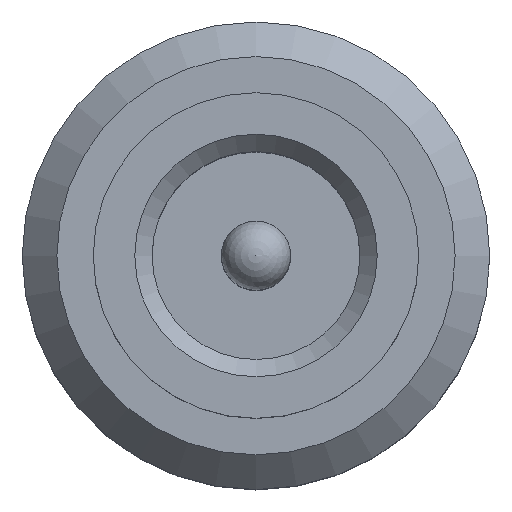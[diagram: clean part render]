
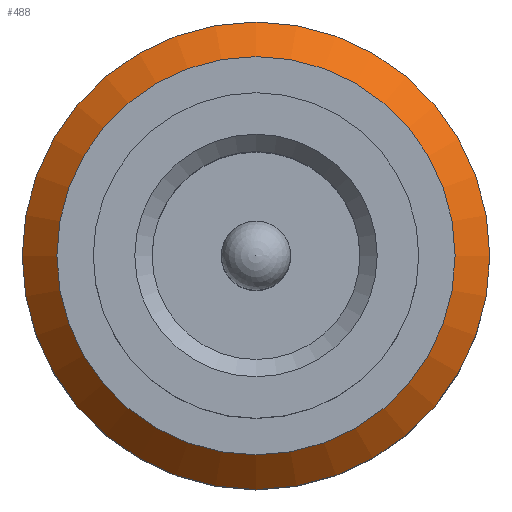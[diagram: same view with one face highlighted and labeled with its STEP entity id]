
A CAD part, top view. The second image highlights one B-rep face of the part: STEP entity #488.
In plain terms, the highlighted conical face has half-angle 45 degrees and reference radius 6.25 mm.
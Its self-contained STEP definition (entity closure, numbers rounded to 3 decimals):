
#57=FACE_OUTER_BOUND('',#87,.T.);
#87=EDGE_LOOP('',(#393,#394,#395,#396,#397));
#106=LINE('',#878,#121);
#121=VECTOR('',#723,6.25);
#161=CIRCLE('',#569,5.75);
#162=CIRCLE('',#571,6.75);
#163=CIRCLE('',#572,6.75);
#215=VERTEX_POINT('',#871);
#216=VERTEX_POINT('',#874);
#217=VERTEX_POINT('',#875);
#278=EDGE_CURVE('',#215,#215,#161,.T.);
#279=EDGE_CURVE('',#216,#217,#162,.T.);
#280=EDGE_CURVE('',#217,#216,#163,.T.);
#281=EDGE_CURVE('',#216,#215,#106,.T.);
#393=ORIENTED_EDGE('',*,*,#279,.T.);
#394=ORIENTED_EDGE('',*,*,#280,.T.);
#395=ORIENTED_EDGE('',*,*,#281,.T.);
#396=ORIENTED_EDGE('',*,*,#278,.T.);
#397=ORIENTED_EDGE('',*,*,#281,.F.);
#442=CONICAL_SURFACE('',#570,6.25,0.785);
#488=ADVANCED_FACE('',(#57),#442,.T.);
#569=AXIS2_PLACEMENT_3D('',#872,#715,#716);
#570=AXIS2_PLACEMENT_3D('',#873,#717,#718);
#571=AXIS2_PLACEMENT_3D('',#876,#719,#720);
#572=AXIS2_PLACEMENT_3D('',#877,#721,#722);
#715=DIRECTION('center_axis',(0.,0.,-1.));
#716=DIRECTION('ref_axis',(0.,-1.,0.));
#717=DIRECTION('center_axis',(0.,0.,-1.));
#718=DIRECTION('ref_axis',(0.,-1.,0.));
#719=DIRECTION('center_axis',(0.,0.,1.));
#720=DIRECTION('ref_axis',(0.,-1.,0.));
#721=DIRECTION('center_axis',(0.,0.,1.));
#722=DIRECTION('ref_axis',(0.,-1.,0.));
#723=DIRECTION('',(0.,-0.707,0.707));
#871=CARTESIAN_POINT('',(0.,5.75,0.));
#872=CARTESIAN_POINT('Origin',(0.,0.,0.));
#873=CARTESIAN_POINT('Origin',(0.,0.,-0.5));
#874=CARTESIAN_POINT('',(0.,6.75,-1.));
#875=CARTESIAN_POINT('',(0.,-6.75,-1.));
#876=CARTESIAN_POINT('Origin',(0.,0.,-1.));
#877=CARTESIAN_POINT('Origin',(0.,0.,-1.));
#878=CARTESIAN_POINT('',(0.,6.25,-0.5));
